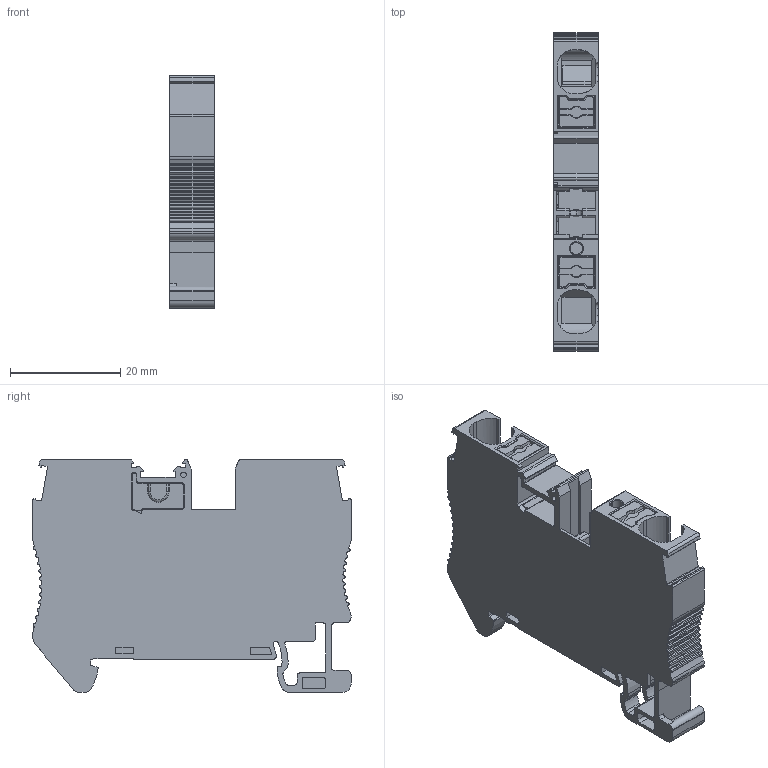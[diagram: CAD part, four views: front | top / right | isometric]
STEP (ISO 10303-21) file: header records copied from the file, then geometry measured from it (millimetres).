
FILE_DESCRIPTION((''),'2;1');
FILE_NAME('UPT-6ASSY','2024-03-29T15:41:43',('Administrator'),(''),'CREO PARAMETRIC BY PTC INC, 2018050','CREO PARAMETRIC BY PTC INC, 2018050','');
FILE_SCHEMA(('CONFIG_CONTROL_DESIGN'));
Length unit declared in the file: millimetre
Products named in the file (1): UPT-6ASSY
Bounding box: 8.15 x 57.73 x 42.2 mm (x, y, z)
Volume: 12177.5 mm3; surface area: 9923.9 mm2
Topology: 1 solids, 1 shells, 782 faces, 2252 edges, 1474 vertices
Faces by surface type: plane 386, cylinder 360, bspline 13, torus 13, extrusion 4, cone 4, sphere 2
Entity records: 28696 total; most frequent: CARTESIAN_POINT 7837, ORIENTED_EDGE 4500, DIRECTION 4305, EDGE_CURVE 2250, VERTEX_POINT 1474, AXIS2_PLACEMENT_3D 1435, VECTOR 1435, LINE 1431
